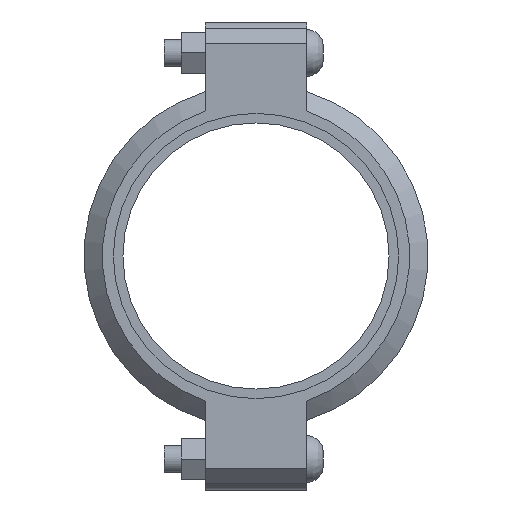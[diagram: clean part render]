
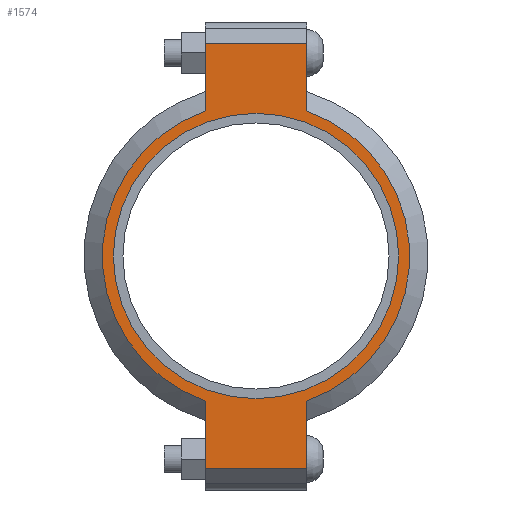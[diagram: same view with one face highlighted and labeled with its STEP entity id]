
A CAD part, left-side view. The second image highlights one B-rep face of the part: STEP entity #1574.
In plain terms, the highlighted planar face has unit normal (-1, 0, 0) as drawn and (0, 0, 1) by its records, which use the part's own axes.
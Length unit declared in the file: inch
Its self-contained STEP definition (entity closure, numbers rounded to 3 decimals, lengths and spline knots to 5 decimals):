
#198=LINE('',#2747,#291);
#206=LINE('',#2783,#299);
#213=LINE('',#2804,#306);
#222=LINE('',#2836,#315);
#223=LINE('',#2840,#316);
#224=LINE('',#2842,#317);
#291=VECTOR('',#2235,0.3937);
#299=VECTOR('',#2251,0.3937);
#306=VECTOR('',#2270,0.3937);
#315=VECTOR('',#2295,0.3937);
#316=VECTOR('',#2300,0.3937);
#317=VECTOR('',#2301,0.3937);
#373=FACE_BOUND('',#551,.T.);
#445=FACE_OUTER_BOUND('',#550,.T.);
#550=EDGE_LOOP('',(#1315,#1316,#1317,#1318,#1319,#1320,#1321,#1322));
#551=EDGE_LOOP('',(#1323));
#623=CIRCLE('',#1793,3.25);
#649=CIRCLE('',#1852,3.5);
#650=CIRCLE('',#1853,3.5);
#715=VERTEX_POINT('',#2563);
#758=VERTEX_POINT('',#2744);
#759=VERTEX_POINT('',#2746);
#770=VERTEX_POINT('',#2778);
#771=VERTEX_POINT('',#2782);
#778=VERTEX_POINT('',#2801);
#779=VERTEX_POINT('',#2803);
#789=VERTEX_POINT('',#2839);
#790=VERTEX_POINT('',#2841);
#871=EDGE_CURVE('',#715,#715,#623,.T.);
#932=EDGE_CURVE('',#759,#758,#198,.T.);
#946=EDGE_CURVE('',#771,#770,#206,.T.);
#956=EDGE_CURVE('',#779,#778,#213,.T.);
#971=EDGE_CURVE('',#771,#758,#222,.T.);
#972=EDGE_CURVE('',#770,#779,#649,.T.);
#973=EDGE_CURVE('',#789,#778,#223,.T.);
#974=EDGE_CURVE('',#789,#790,#224,.T.);
#975=EDGE_CURVE('',#790,#759,#650,.T.);
#1315=ORIENTED_EDGE('',*,*,#971,.F.);
#1316=ORIENTED_EDGE('',*,*,#946,.T.);
#1317=ORIENTED_EDGE('',*,*,#972,.T.);
#1318=ORIENTED_EDGE('',*,*,#956,.T.);
#1319=ORIENTED_EDGE('',*,*,#973,.F.);
#1320=ORIENTED_EDGE('',*,*,#974,.T.);
#1321=ORIENTED_EDGE('',*,*,#975,.T.);
#1322=ORIENTED_EDGE('',*,*,#932,.T.);
#1323=ORIENTED_EDGE('',*,*,#871,.T.);
#1416=PLANE('',#1851);
#1574=ADVANCED_FACE('',(#445,#373),#1416,.T.);
#1793=AXIS2_PLACEMENT_3D('',#2565,#2111,#2112);
#1851=AXIS2_PLACEMENT_3D('',#2837,#2296,#2297);
#1852=AXIS2_PLACEMENT_3D('',#2838,#2298,#2299);
#1853=AXIS2_PLACEMENT_3D('',#2843,#2302,#2303);
#2111=DIRECTION('center_axis',(0.,0.,-1.));
#2112=DIRECTION('ref_axis',(-1.,0.,0.));
#2235=DIRECTION('',(-1.,0.,0.));
#2251=DIRECTION('',(1.,0.,0.));
#2270=DIRECTION('',(1.,0.,0.));
#2295=DIRECTION('',(0.,1.,0.));
#2296=DIRECTION('center_axis',(0.,0.,1.));
#2297=DIRECTION('ref_axis',(1.,0.,0.));
#2298=DIRECTION('center_axis',(0.,0.,1.));
#2299=DIRECTION('ref_axis',(-1.,0.,0.));
#2300=DIRECTION('',(0.,-1.,0.));
#2301=DIRECTION('',(-1.,0.,0.));
#2302=DIRECTION('center_axis',(0.,0.,1.));
#2303=DIRECTION('ref_axis',(-1.,0.,0.));
#2563=CARTESIAN_POINT('',(3.25,0.,1.04));
#2565=CARTESIAN_POINT('Origin',(0.,0.,1.04));
#2744=CARTESIAN_POINT('',(-4.83,1.156,1.04));
#2746=CARTESIAN_POINT('',(-3.30358,1.156,1.04));
#2747=CARTESIAN_POINT('',(-5.33,1.156,1.04));
#2778=CARTESIAN_POINT('',(-3.30358,-1.156,1.04));
#2782=CARTESIAN_POINT('',(-4.83,-1.156,1.04));
#2783=CARTESIAN_POINT('',(5.33,-1.156,1.04));
#2801=CARTESIAN_POINT('',(4.83,-1.156,1.04));
#2803=CARTESIAN_POINT('',(3.30358,-1.156,1.04));
#2804=CARTESIAN_POINT('',(5.33,-1.156,1.04));
#2836=CARTESIAN_POINT('',(-4.83,0.578,1.04));
#2837=CARTESIAN_POINT('Origin',(0.,0.,1.04));
#2838=CARTESIAN_POINT('Origin',(0.,0.,1.04));
#2839=CARTESIAN_POINT('',(4.83,1.156,1.04));
#2840=CARTESIAN_POINT('',(4.83,-0.578,1.04));
#2841=CARTESIAN_POINT('',(3.30358,1.156,1.04));
#2842=CARTESIAN_POINT('',(-5.33,1.156,1.04));
#2843=CARTESIAN_POINT('Origin',(0.,0.,1.04));
